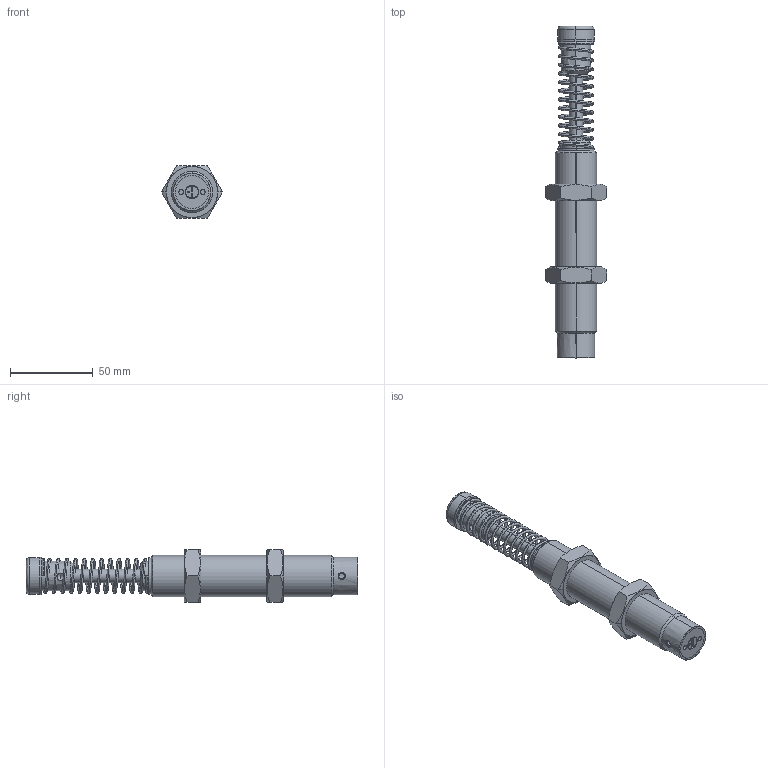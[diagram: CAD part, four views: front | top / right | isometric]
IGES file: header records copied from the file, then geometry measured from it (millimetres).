
Start section: SolidWorks IGES file using analytic representation for surfaces
Bounding box: 36.95 x 200.5 x 32 mm (x, y, z)
Surface area: 23755.5 mm2 (no closed solid volume)
Topology: 0 solids, 0 shells, 102 faces, 2004 edges, 1998 vertices
Faces by surface type: revolution 52, bspline 50
